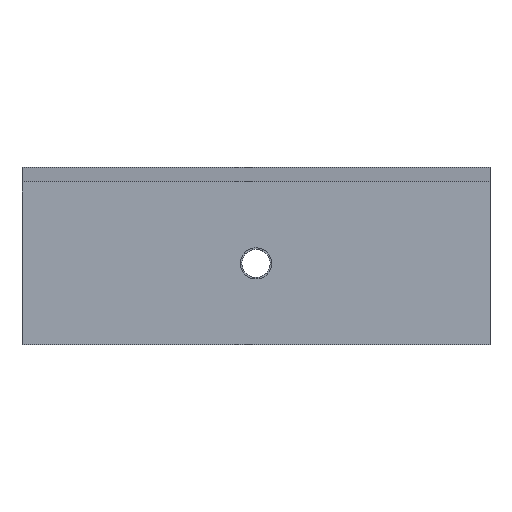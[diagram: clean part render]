
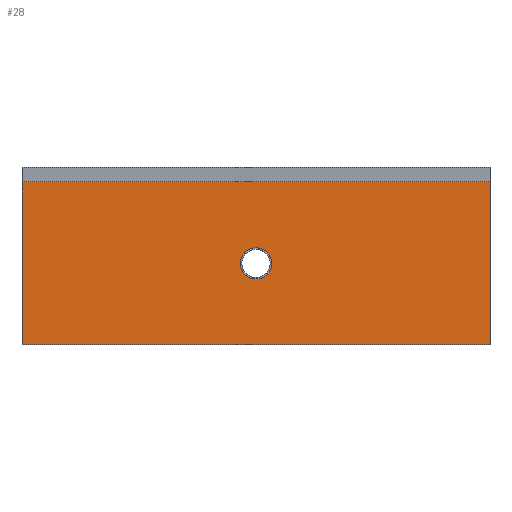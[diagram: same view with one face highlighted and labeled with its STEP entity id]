
A CAD part, front view. The second image highlights one B-rep face of the part: STEP entity #28.
In plain terms, the highlighted planar face has unit normal (0, -1, 0).
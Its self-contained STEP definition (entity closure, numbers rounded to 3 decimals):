
#14=FACE_BOUND('',#87,.T.);
#28=ADVANCED_FACE('',(#57,#14),#483,.T.);
#57=FACE_OUTER_BOUND('',#86,.T.);
#86=EDGE_LOOP('',(#139,#140,#141,#142));
#87=EDGE_LOOP('',(#143,#144));
#139=ORIENTED_EDGE('',*,*,#296,.F.);
#140=ORIENTED_EDGE('',*,*,#297,.F.);
#141=ORIENTED_EDGE('',*,*,#298,.F.);
#142=ORIENTED_EDGE('',*,*,#295,.F.);
#143=ORIENTED_EDGE('',*,*,#352,.F.);
#144=ORIENTED_EDGE('',*,*,#277,.F.);
#277=EDGE_CURVE('',#433,#434,#404,.T.);
#295=EDGE_CURVE('',#451,#452,#363,.T.);
#296=EDGE_CURVE('',#453,#451,#364,.T.);
#297=EDGE_CURVE('',#454,#453,#365,.T.);
#298=EDGE_CURVE('',#452,#454,#366,.T.);
#352=EDGE_CURVE('',#434,#433,#430,.T.);
#363=B_SPLINE_CURVE_WITH_KNOTS('',1,(#1025,#1026),.UNSPECIFIED.,.F.,.F.,
(2,2),(-55.,0.),.UNSPECIFIED.);
#364=B_SPLINE_CURVE_WITH_KNOTS('',1,(#1027,#1028),.UNSPECIFIED.,.F.,.F.,
(2,2),(0.,158.),.UNSPECIFIED.);
#365=B_SPLINE_CURVE_WITH_KNOTS('',1,(#1029,#1030),.UNSPECIFIED.,.F.,.F.,
(2,2),(0.,55.),.UNSPECIFIED.);
#366=B_SPLINE_CURVE_WITH_KNOTS('',1,(#1031,#1032),.UNSPECIFIED.,.F.,.F.,
(2,2),(-158.,0.),.UNSPECIFIED.);
#404=(
BOUNDED_CURVE()
B_SPLINE_CURVE(2,(#962,#963,#964,#965,#966),.UNSPECIFIED.,.F.,.F.)
B_SPLINE_CURVE_WITH_KNOTS((3,2,3),(0.,8.247,16.493),
 .UNSPECIFIED.)
CURVE()
GEOMETRIC_REPRESENTATION_ITEM()
RATIONAL_B_SPLINE_CURVE((1.,0.707,1.,0.707,1.))
REPRESENTATION_ITEM('')
);
#430=(
BOUNDED_CURVE()
B_SPLINE_CURVE(2,(#1174,#1175,#1176,#1177,#1178),.UNSPECIFIED.,.F.,.F.)
B_SPLINE_CURVE_WITH_KNOTS((3,2,3),(0.,8.247,16.493),
 .UNSPECIFIED.)
CURVE()
GEOMETRIC_REPRESENTATION_ITEM()
RATIONAL_B_SPLINE_CURVE((1.,0.707,1.,0.707,1.))
REPRESENTATION_ITEM('')
);
#433=VERTEX_POINT('',#905);
#434=VERTEX_POINT('',#906);
#451=VERTEX_POINT('',#923);
#452=VERTEX_POINT('',#924);
#453=VERTEX_POINT('',#925);
#454=VERTEX_POINT('',#926);
#483=PLANE('',#600);
#600=AXIS2_PLACEMENT_3D('',#726,#618,$);
#618=DIRECTION('',(0.,-1.,0.));
#726=CARTESIAN_POINT('',(-94.801,0.,-5.501));
#905=CARTESIAN_POINT('',(0.,0.,22.25));
#906=CARTESIAN_POINT('',(0.,0.,32.75));
#923=CARTESIAN_POINT('',(-79.,0.,0.));
#924=CARTESIAN_POINT('',(-79.,0.,55.));
#925=CARTESIAN_POINT('',(79.,0.,0.));
#926=CARTESIAN_POINT('',(79.,0.,55.));
#962=CARTESIAN_POINT('',(0.,0.,22.25));
#963=CARTESIAN_POINT('',(5.25,0.,22.25));
#964=CARTESIAN_POINT('',(5.25,0.,27.5));
#965=CARTESIAN_POINT('',(5.25,0.,32.75));
#966=CARTESIAN_POINT('',(0.,0.,32.75));
#1025=CARTESIAN_POINT('',(-79.,0.,0.));
#1026=CARTESIAN_POINT('',(-79.,0.,55.));
#1027=CARTESIAN_POINT('',(79.,0.,0.));
#1028=CARTESIAN_POINT('',(-79.,0.,0.));
#1029=CARTESIAN_POINT('',(79.,0.,55.));
#1030=CARTESIAN_POINT('',(79.,0.,0.));
#1031=CARTESIAN_POINT('',(-79.,0.,55.));
#1032=CARTESIAN_POINT('',(79.,0.,55.));
#1174=CARTESIAN_POINT('',(0.,0.,32.75));
#1175=CARTESIAN_POINT('',(-5.25,0.,32.75));
#1176=CARTESIAN_POINT('',(-5.25,0.,27.5));
#1177=CARTESIAN_POINT('',(-5.25,0.,22.25));
#1178=CARTESIAN_POINT('',(0.,0.,22.25));
